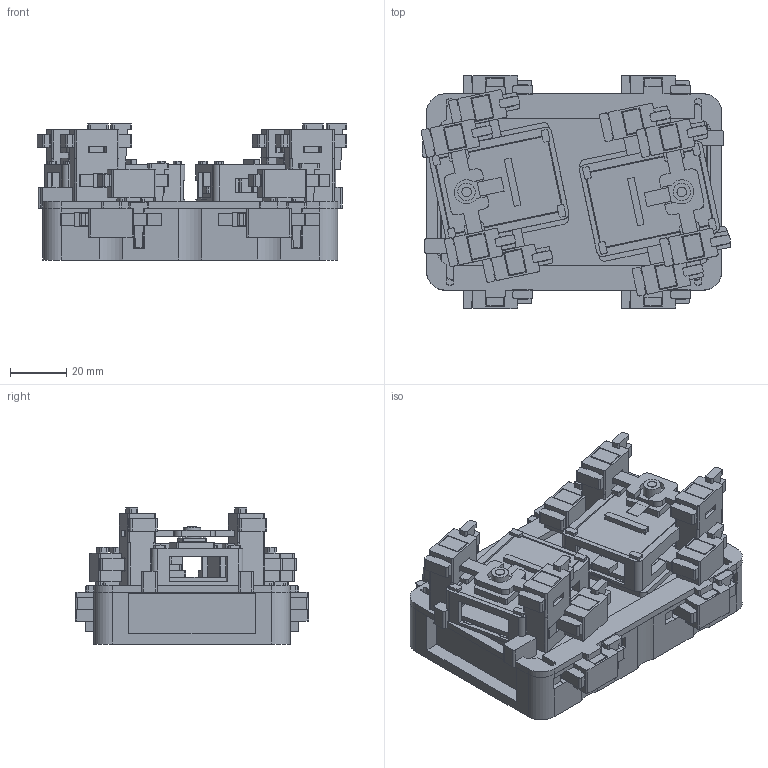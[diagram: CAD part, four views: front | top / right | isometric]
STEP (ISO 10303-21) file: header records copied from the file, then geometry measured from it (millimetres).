
FILE_DESCRIPTION(('Open CASCADE Model'),'2;1');
FILE_NAME('Open CASCADE Shape Model','2026-10-23T20:21:36',('Author'),( 'Open CASCADE'),'Open CASCADE STEP processor 7.8','Open CASCADE 7.8' ,'Unknown');
FILE_SCHEMA(('AUTOMOTIVE_DESIGN { 1 0 10303 214 1 1 1 1 }'));
Length unit declared in the file: millimetre
Products named in the file (89): Stereo_Multigrip_R03_nominal_fit; 01_bank_cradle; 02_multigrip_carrier; 03_MB_keeper_left; 04_MB_keeper_right; 05_sensor_yoke_left; 06_sensor_yoke_right; 10_frame_1_pin; 10_frame_1_wedge; 10_frame_2_pin; 10_frame_2_wedge; 10_frame_3_pin; 10_frame_3_wedge; 10_frame_4_pin; 10_frame_4_wedge; 20_keeper_L_down_pin; 20_keeper_L_down_wedge; 20_keeper_L_up_pin; 20_keeper_L_up_wedge; 30_yoke_L_down_pin; 30_yoke_L_down_wedge; 30_yoke_L_up_pin; 30_yoke_L_up_wedge; 20_keeper_R_down_pin; 20_keeper_R_down_wedge; 20_keeper_R_up_pin; 20_keeper_R_up_wedge; 30_yoke_R_down_pin; 30_yoke_R_down_wedge; 30_yoke_R_up_pin; 30_yoke_R_up_wedge; REF_power_bank; REF_bank_indicator; REF_LED_9; REF_LED_16; REF_L_MB; REF_L_CAM; REF_L_socket_-1; REF_L_pin_-1_0; REF_L_pin_-1_1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
Assembly tree (88 placements, depth 2):
  Stereo_Multigrip_R03_nominal_fit
    01_bank_cradle
    02_multigrip_carrier
    03_MB_keeper_left
    04_MB_keeper_right
    05_sensor_yoke_left
    06_sensor_yoke_right
    10_frame_1_pin
    10_frame_1_wedge
    10_frame_2_pin
    10_frame_2_wedge
    10_frame_3_pin
    10_frame_3_wedge
    10_frame_4_pin
    10_frame_4_wedge
    20_keeper_L_down_pin
    20_keeper_L_down_wedge
    20_keeper_L_up_pin
    20_keeper_L_up_wedge
    30_yoke_L_down_pin
    30_yoke_L_down_wedge
    30_yoke_L_up_pin
    30_yoke_L_up_wedge
    20_keeper_R_down_pin
    20_keeper_R_down_wedge
    20_keeper_R_up_pin
    20_keeper_R_up_wedge
    30_yoke_R_down_pin
    30_yoke_R_down_wedge
    30_yoke_R_up_pin
    30_yoke_R_up_wedge
    REF_power_bank
    REF_bank_indicator
    REF_LED_9
    REF_LED_16
    REF_L_MB
    REF_L_CAM
    REF_L_socket_-1
    REF_L_pin_-1_0
    REF_L_pin_-1_1
    REF_L_pin_-1_2
    REF_L_pin_-1_3
    REF_L_pin_-1_4
    REF_L_pin_-1_5
    REF_L_pin_-1_6
    REF_L_pin_-1_7
    REF_L_socket_1
    REF_L_pin_1_0
    REF_L_pin_1_1
    REF_L_pin_1_2
    REF_L_pin_1_3
    REF_L_pin_1_4
    REF_L_pin_1_5
    REF_L_pin_1_6
    REF_L_pin_1_7
    REF_L_SD_cage
    REF_L_sensor_carrier
    REF_L_lens_barrel
    REF_L_lens_glass
    REF_L_flex
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Bounding box: 109.78 x 82.8 x 48.25 mm (x, y, z)
Volume: 163501.3 mm3; surface area: 94301.1 mm2
Topology: 88 solids, 88 shells, 2492 faces, 7007 edges, 4654 vertices
Faces by surface type: plane 1663, cylinder 829
Full cylindrical faces by diameter (mm): 1.5 x2, 3.4 x2, 6.2 x2
Entity records: 174408 total; most frequent: CARTESIAN_POINT 32873, DIRECTION 26133, LINE 16454, VECTOR 16454, ORIENTED_EDGE 14014, PCURVE 14014, DEFINITIONAL_REPRESENTATION 14014, EDGE_CURVE 7007
